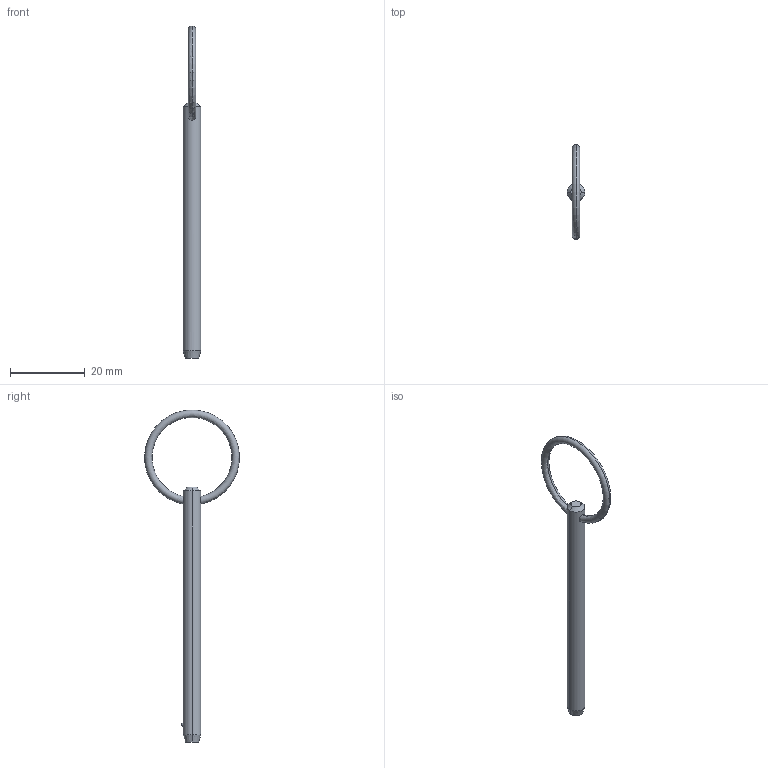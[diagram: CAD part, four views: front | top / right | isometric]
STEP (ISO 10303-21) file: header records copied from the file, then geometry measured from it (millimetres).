
FILE_DESCRIPTION (( 'STEP AP203' ), '1' );
FILE_NAME ('P1250.018-230.step', '2019-07-29T19:33:47', ( '' ), ( '' ), 'SwSTEP 2.0', 'SolidWorks 2017', '' );
FILE_SCHEMA (( 'CONFIG_CONTROL_DESIGN' ));
Length unit declared in the file: millimetre
Products named in the file (1): P1250.018-230
Bounding box: 4.76 x 25.4 x 88.88 mm (x, y, z)
Volume: 1416.5 mm3; surface area: 1463.4 mm2
Topology: 1 solids, 1 shells, 12 faces, 28 edges, 17 vertices
Faces by surface type: cone 4, torus 2, sphere 2, cylinder 2, plane 2
Entity records: 471 total; most frequent: CARTESIAN_POINT 138, DIRECTION 56, ORIENTED_EDGE 48, AXIS2_PLACEMENT_3D 25, EDGE_CURVE 24, VERTEX_POINT 15, EDGE_LOOP 15, CIRCLE 12
